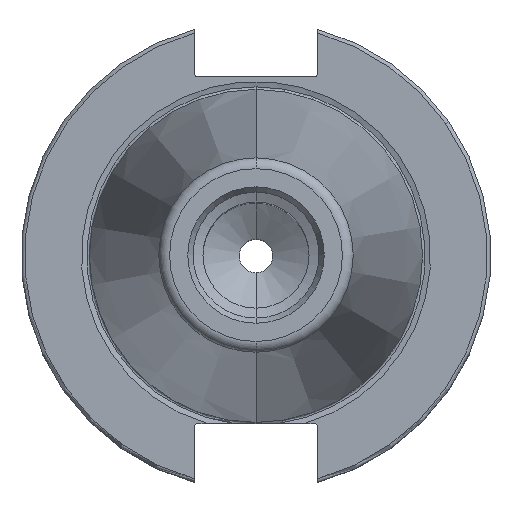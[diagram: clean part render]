
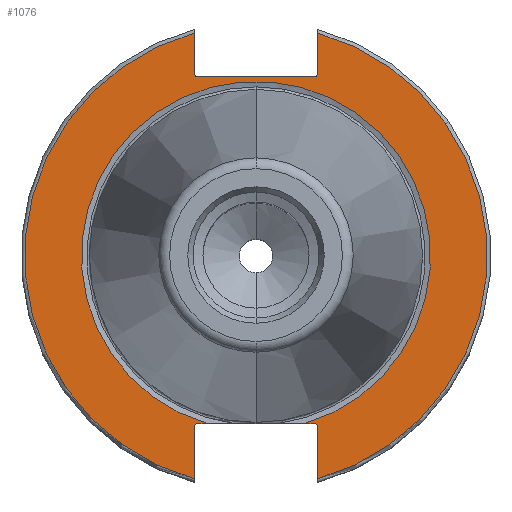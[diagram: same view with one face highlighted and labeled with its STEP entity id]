
A CAD part, top view. The second image highlights one B-rep face of the part: STEP entity #1076.
In plain terms, the highlighted planar face has unit normal (0, 0, 1).
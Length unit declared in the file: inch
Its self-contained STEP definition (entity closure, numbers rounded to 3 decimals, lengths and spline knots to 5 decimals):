
#14 = DIRECTION ( 'NONE',  ( 0., 0., -1. ) ) ;
#42 = CIRCLE ( 'NONE', #2548, 0.03 ) ;
#89 = DIRECTION ( 'NONE',  ( 0., -1., 0. ) ) ;
#126 = CARTESIAN_POINT ( 'NONE',  ( 0.51, -1.83806, -0.125 ) ) ;
#142 = CARTESIAN_POINT ( 'NONE',  ( 1.9075, -1.3825, -0.125 ) ) ;
#153 = CIRCLE ( 'NONE', #2365, 1.9075 ) ;
#203 = LINE ( 'NONE', #501, #3180 ) ;
#208 = VERTEX_POINT ( 'NONE', #4057 ) ;
#292 = CARTESIAN_POINT ( 'NONE',  ( 1.9075, -1.3825, -0.125 ) ) ;
#365 = ORIENTED_EDGE ( 'NONE', *, *, #4448, .T. ) ;
#395 = CARTESIAN_POINT ( 'NONE',  ( 0.48, 1.4775, -0.125 ) ) ;
#409 = CARTESIAN_POINT ( 'NONE',  ( 0.51, 1.83806, -0.125 ) ) ;
#420 = VERTEX_POINT ( 'NONE', #3621 ) ;
#501 = CARTESIAN_POINT ( 'NONE',  ( 1.9075, 1.4775, -0.125 ) ) ;
#540 = VERTEX_POINT ( 'NONE', #4571 ) ;
#553 = ORIENTED_EDGE ( 'NONE', *, *, #4593, .F. ) ;
#561 = DIRECTION ( 'NONE',  ( 0., 0., -1. ) ) ;
#602 = DIRECTION ( 'NONE',  ( 0., 0., -1. ) ) ;
#613 = EDGE_CURVE ( 'NONE', #4208, #3705, #2288, .T. ) ;
#651 = ORIENTED_EDGE ( 'NONE', *, *, #2875, .T. ) ;
#665 = CARTESIAN_POINT ( 'NONE',  ( 0., 0., -0.125 ) ) ;
#685 = AXIS2_PLACEMENT_3D ( 'NONE', #4378, #3674, #89 ) ;
#689 = EDGE_CURVE ( 'NONE', #1273, #1290, #153, .T. ) ;
#724 = AXIS2_PLACEMENT_3D ( 'NONE', #1975, #3419, #4027 ) ;
#758 = CARTESIAN_POINT ( 'NONE',  ( -0.48, 1.4775, -0.125 ) ) ;
#830 = CARTESIAN_POINT ( 'NONE',  ( 0., 0., -0.125 ) ) ;
#943 = LINE ( 'NONE', #2428, #2401 ) ;
#965 = DIRECTION ( 'NONE',  ( 1., 0., 0. ) ) ;
#986 = CARTESIAN_POINT ( 'NONE',  ( 1.9075, 0., -0.125 ) ) ;
#1014 = AXIS2_PLACEMENT_3D ( 'NONE', #665, #2073, #4657 ) ;
#1035 = CARTESIAN_POINT ( 'NONE',  ( -0.40209, -1.3825, -0.125 ) ) ;
#1043 = ORIENTED_EDGE ( 'NONE', *, *, #2754, .T. ) ;
#1076 = ADVANCED_FACE ( 'NONE', ( #4536 ), #2005, .T. ) ;
#1176 = AXIS2_PLACEMENT_3D ( 'NONE', #830, #1587, #1215 ) ;
#1215 = DIRECTION ( 'NONE',  ( 0., 1., 0. ) ) ;
#1273 = VERTEX_POINT ( 'NONE', #409 ) ;
#1290 = VERTEX_POINT ( 'NONE', #126 ) ;
#1354 = ORIENTED_EDGE ( 'NONE', *, *, #613, .T. ) ;
#1587 = DIRECTION ( 'NONE',  ( 0., 0., -1. ) ) ;
#1591 = DIRECTION ( 'NONE',  ( 0., -1., 0. ) ) ;
#1598 = CARTESIAN_POINT ( 'NONE',  ( 0.51, 0., -0.125 ) ) ;
#1615 = VECTOR ( 'NONE', #1591, 39.37008 ) ;
#1628 = CIRCLE ( 'NONE', #724, 0.03 ) ;
#1638 = AXIS2_PLACEMENT_3D ( 'NONE', #3950, #14, #2893 ) ;
#1643 = EDGE_CURVE ( 'NONE', #3829, #2235, #4351, .T. ) ;
#1653 = VERTEX_POINT ( 'NONE', #395 ) ;
#1709 = VECTOR ( 'NONE', #4495, 39.37008 ) ;
#1712 = CARTESIAN_POINT ( 'NONE',  ( 0.48, 1.5075, -0.125 ) ) ;
#1746 = DIRECTION ( 'NONE',  ( 0., 0., 1. ) ) ;
#1754 = VERTEX_POINT ( 'NONE', #3933 ) ;
#1796 = VECTOR ( 'NONE', #2161, 39.37008 ) ;
#1890 = EDGE_CURVE ( 'NONE', #1923, #1273, #4102, .T. ) ;
#1921 = VECTOR ( 'NONE', #4438, 39.37008 ) ;
#1923 = VERTEX_POINT ( 'NONE', #2395 ) ;
#1930 = ORIENTED_EDGE ( 'NONE', *, *, #3082, .T. ) ;
#1957 = LINE ( 'NONE', #142, #2093 ) ;
#1967 = CARTESIAN_POINT ( 'NONE',  ( -0.51, -1.83806, -0.125 ) ) ;
#1975 = CARTESIAN_POINT ( 'NONE',  ( 0.48, -1.4125, -0.125 ) ) ;
#2005 = PLANE ( 'NONE',  #2293 ) ;
#2056 = CARTESIAN_POINT ( 'NONE',  ( -0.51, 1.83806, -0.125 ) ) ;
#2073 = DIRECTION ( 'NONE',  ( 0., 0., -1. ) ) ;
#2091 = ORIENTED_EDGE ( 'NONE', *, *, #2781, .T. ) ;
#2093 = VECTOR ( 'NONE', #3891, 39.37008 ) ;
#2161 = DIRECTION ( 'NONE',  ( 1., 0., 0. ) ) ;
#2164 = EDGE_CURVE ( 'NONE', #2235, #3705, #4122, .T. ) ;
#2220 = CARTESIAN_POINT ( 'NONE',  ( 0.40209, -1.3825, -0.125 ) ) ;
#2235 = VERTEX_POINT ( 'NONE', #2056 ) ;
#2288 = CIRCLE ( 'NONE', #685, 0.03 ) ;
#2293 = AXIS2_PLACEMENT_3D ( 'NONE', #986, #1746, #4600 ) ;
#2312 = CARTESIAN_POINT ( 'NONE',  ( -0.51, 1.5075, -0.125 ) ) ;
#2314 = ORIENTED_EDGE ( 'NONE', *, *, #3129, .T. ) ;
#2365 = AXIS2_PLACEMENT_3D ( 'NONE', #3951, #561, #2894 ) ;
#2395 = CARTESIAN_POINT ( 'NONE',  ( 0.51, 1.5075, -0.125 ) ) ;
#2401 = VECTOR ( 'NONE', #2402, 39.37008 ) ;
#2402 = DIRECTION ( 'NONE',  ( 0., -1., 0. ) ) ;
#2428 = CARTESIAN_POINT ( 'NONE',  ( 0.51, 0., -0.125 ) ) ;
#2455 = DIRECTION ( 'NONE',  ( 0., -1., 0. ) ) ;
#2514 = LINE ( 'NONE', #292, #1796 ) ;
#2528 = VERTEX_POINT ( 'NONE', #1035 ) ;
#2548 = AXIS2_PLACEMENT_3D ( 'NONE', #1712, #602, #2455 ) ;
#2635 = VERTEX_POINT ( 'NONE', #2220 ) ;
#2692 = EDGE_CURVE ( 'NONE', #2528, #2635, #3450, .T. ) ;
#2754 = EDGE_CURVE ( 'NONE', #540, #1754, #1628, .T. ) ;
#2781 = EDGE_CURVE ( 'NONE', #208, #2528, #1957, .T. ) ;
#2813 = ORIENTED_EDGE ( 'NONE', *, *, #2164, .F. ) ;
#2875 = EDGE_CURVE ( 'NONE', #1923, #1653, #42, .T. ) ;
#2893 = DIRECTION ( 'NONE',  ( 0., -1., 0. ) ) ;
#2894 = DIRECTION ( 'NONE',  ( 0., 1., 0. ) ) ;
#2904 = ORIENTED_EDGE ( 'NONE', *, *, #3046, .T. ) ;
#3046 = EDGE_CURVE ( 'NONE', #3829, #420, #3048, .T. ) ;
#3048 = LINE ( 'NONE', #3730, #1709 ) ;
#3082 = EDGE_CURVE ( 'NONE', #1754, #1290, #943, .T. ) ;
#3129 = EDGE_CURVE ( 'NONE', #2635, #540, #2514, .T. ) ;
#3180 = VECTOR ( 'NONE', #965, 39.37008 ) ;
#3271 = ORIENTED_EDGE ( 'NONE', *, *, #1890, .F. ) ;
#3282 = ORIENTED_EDGE ( 'NONE', *, *, #1643, .F. ) ;
#3419 = DIRECTION ( 'NONE',  ( 0., 0., -1. ) ) ;
#3450 = CIRCLE ( 'NONE', #1176, 1.43979 ) ;
#3554 = ORIENTED_EDGE ( 'NONE', *, *, #689, .F. ) ;
#3621 = CARTESIAN_POINT ( 'NONE',  ( -0.51, -1.4125, -0.125 ) ) ;
#3674 = DIRECTION ( 'NONE',  ( 0., 0., -1. ) ) ;
#3683 = CIRCLE ( 'NONE', #1638, 0.03 ) ;
#3705 = VERTEX_POINT ( 'NONE', #2312 ) ;
#3730 = CARTESIAN_POINT ( 'NONE',  ( -0.51, 0., -0.125 ) ) ;
#3829 = VERTEX_POINT ( 'NONE', #1967 ) ;
#3891 = DIRECTION ( 'NONE',  ( 1., 0., 0. ) ) ;
#3933 = CARTESIAN_POINT ( 'NONE',  ( 0.51, -1.4125, -0.125 ) ) ;
#3950 = CARTESIAN_POINT ( 'NONE',  ( -0.48, -1.4125, -0.125 ) ) ;
#3951 = CARTESIAN_POINT ( 'NONE',  ( 0., 0., -0.125 ) ) ;
#4027 = DIRECTION ( 'NONE',  ( 0., -1., 0. ) ) ;
#4057 = CARTESIAN_POINT ( 'NONE',  ( -0.48, -1.3825, -0.125 ) ) ;
#4074 = CARTESIAN_POINT ( 'NONE',  ( -0.51, 0., -0.125 ) ) ;
#4102 = LINE ( 'NONE', #1598, #1921 ) ;
#4122 = LINE ( 'NONE', #4074, #1615 ) ;
#4208 = VERTEX_POINT ( 'NONE', #758 ) ;
#4342 = EDGE_LOOP ( 'NONE', ( #2813, #3282, #2904, #365, #2091, #4517, #2314, #1043, #1930, #3554, #3271, #651, #553, #1354 ) ) ;
#4351 = CIRCLE ( 'NONE', #1014, 1.9075 ) ;
#4378 = CARTESIAN_POINT ( 'NONE',  ( -0.48, 1.5075, -0.125 ) ) ;
#4438 = DIRECTION ( 'NONE',  ( 0., 1., 0. ) ) ;
#4448 = EDGE_CURVE ( 'NONE', #420, #208, #3683, .T. ) ;
#4495 = DIRECTION ( 'NONE',  ( 0., 1., 0. ) ) ;
#4517 = ORIENTED_EDGE ( 'NONE', *, *, #2692, .T. ) ;
#4536 = FACE_OUTER_BOUND ( 'NONE', #4342, .T. ) ;
#4571 = CARTESIAN_POINT ( 'NONE',  ( 0.48, -1.3825, -0.125 ) ) ;
#4593 = EDGE_CURVE ( 'NONE', #4208, #1653, #203, .T. ) ;
#4600 = DIRECTION ( 'NONE',  ( 0., -1., 0. ) ) ;
#4657 = DIRECTION ( 'NONE',  ( 0., 1., 0. ) ) ;
